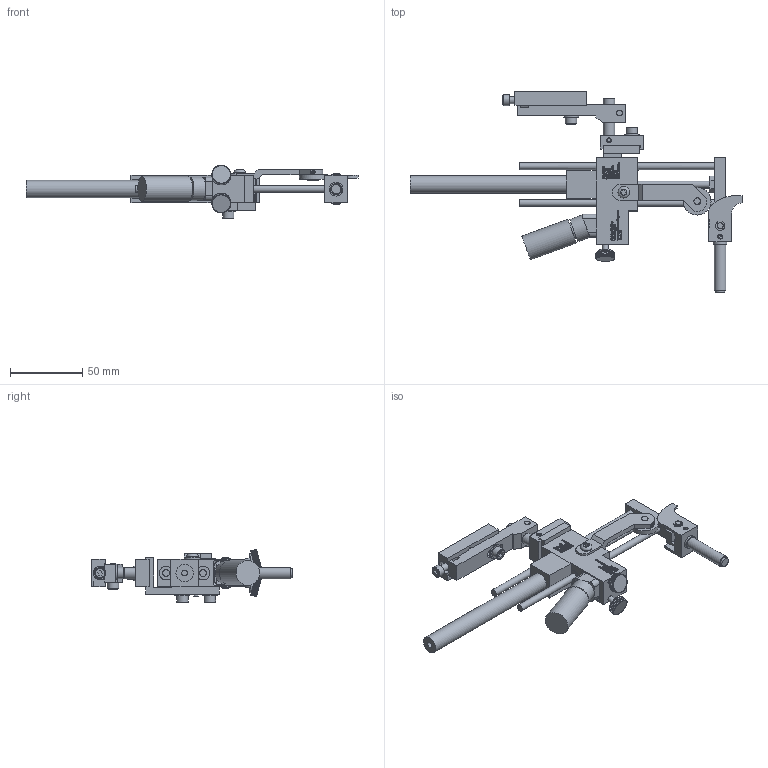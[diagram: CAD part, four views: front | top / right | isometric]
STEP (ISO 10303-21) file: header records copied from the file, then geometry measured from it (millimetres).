
FILE_DESCRIPTION((''),'2;1');
FILE_NAME('C:\Documents and Settings\Ron\My Documents\Inventor\Sprinter Drawing\Machines in Inventor\Model 44\Dot\1-fourth\Ext Hd 1in\Brkt\90\Model 44 Ext HD 1in .25 dia dot 90 Deg w brkt.stp','2009-01-20T07:28:55',('Ron'),(''),'Autodesk Inventor 2008','Autodesk Inventor 2008','');
FILE_SCHEMA(('AUTOMOTIVE_DESIGN { 1 0 10303 214 1 1 1 1 }'));
Length unit declared in the file: inch
Products named in the file (1): Model 44 Ext HD 1in .25 dia dot 90 Deg w brkt
Bounding box: 229.34 x 138.65 x 36.82 mm (x, y, z)
Volume: 110340.8 mm3; surface area: 54398.2 mm2
Topology: 381 solids, 381 shells, 6204 faces, 15405 edges, 9528 vertices
Faces by surface type: plane 4356, bspline 1321, cylinder 472, cone 51, torus 4
Full cylindrical faces by diameter (mm): 3.175 x4, 3.302 x1, 3.962 x1, 4.064 x6, 4.166 x1, 4.699 x1, 4.75 x4, 4.775 x1, 4.826 x7, 5.08 x1, 5.156 x4, 5.207 x2, 5.41 x2, 6.096 x1, 6.299 x2, 6.35 x1, 7.239 x1, 7.62 x1, 7.874 x1, 7.925 x7, 7.938 x1, 8.128 x1, 9.017 x1, 9.398 x1, 9.525 x2, 10.312 x4, 10.922 x1, 11.036 x1, 11.938 x2, 14.478 x1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
Entity records: 197634 total; most frequent: CARTESIAN_POINT 54203, ORIENTED_EDGE 30352, DIRECTION 23588, EDGE_CURVE 15176, VECTOR 11362, LINE 11362, VERTEX_POINT 9459, EDGE_LOOP 6767
